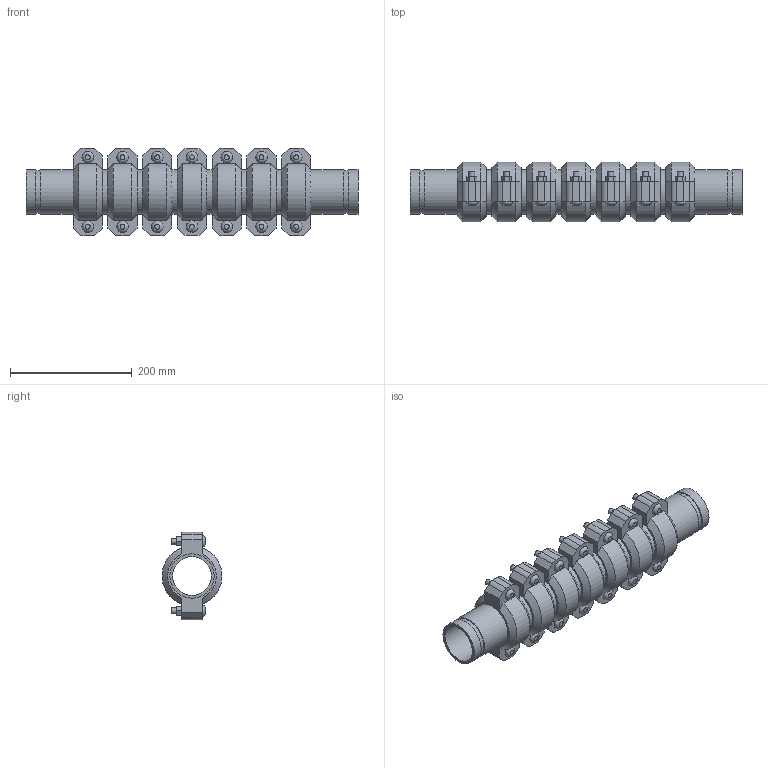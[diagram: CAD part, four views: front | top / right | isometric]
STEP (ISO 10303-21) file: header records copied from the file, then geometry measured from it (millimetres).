
FILE_DESCRIPTION(/* description */ ('VIC SS EXPANSION JOINT 7 COUPLINGS COMPRESSED STYLE 155P (OGS) (POTABLE WATER) ','CAx-IF Rec.Pracs.---Representation and Presentation of Product Manufacturing Information (PMI)---4.0---2014-10-13'),/* implementation_level */ '2;1');
FILE_NAME(/* name */ 'C:\Users\kkamble\AppData\Roaming\Autodesk\ApplicationPlugins\Victaulic.Temp\A968\Victaulic_SS_Expansion Joint_Compressed_7 Couplings_Style 155P (OGS)-Potable Water_7 Coup_Comp_2.5 (65).stp',/* time_stamp */ '2021-07-16T17:15:53+06:00',/* author */ ('kkamble'),/* organization */ ('Victaulic'),/* preprocessor_version */ 'ST-DEVELOPER v17.2',/* originating_system */ 'Autodesk Inventor 2019',/* authorisation */ '');
FILE_SCHEMA (('AP242_MANAGED_MODEL_BASED_3D_ENGINEERING_MIM_LF { 1 0 10303 442 1 1 4 }'));
Length unit declared in the file: inch
Products named in the file (4): 155P-02.5; Nipple-02.5; Nipple-02.5_1; 075-02.5
Assembly tree (15 placements, depth 2):
  155P-02.5
    Nipple-02.5  x2
    Nipple-02.5_1  x6
    075-02.5  x7
Bounding box: 546.1 x 98.22 x 144.27 mm (x, y, z)
Volume: 2005049.6 mm3; surface area: 561701.4 mm2
Topology: 15 solids, 29 shells, 467 faces, 1129 edges, 794 vertices
Faces by surface type: plane 286, cylinder 139, cone 28, bspline 14
Full cylindrical faces by diameter (mm): 9.525 x28, 11.43 x14, 63.475 x8, 69.088 x16, 73.025 x31
Entity records: 2721 total; most frequent: CARTESIAN_POINT 485, DIRECTION 455, ORIENTED_EDGE 374, EDGE_CURVE 187, AXIS2_PLACEMENT_3D 182, VERTEX_POINT 134, EDGE_LOOP 101, LINE 91
